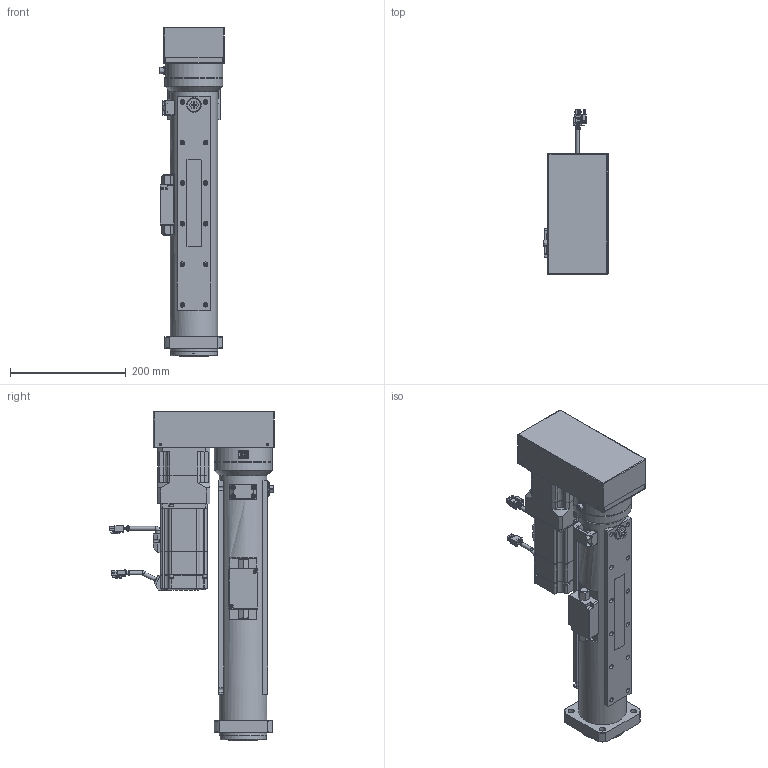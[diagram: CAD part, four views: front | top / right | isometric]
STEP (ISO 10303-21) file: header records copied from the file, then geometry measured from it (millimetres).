
FILE_DESCRIPTION( ('This file contains a STEP AP42 implementation' ,'as created by ZW3D STEP Interface translator.') ,'2;1' );
FILE_NAME( 'OACIS-DC-P008-300-250-A6_V20.01.stp' ,'25 3 8. 91138', (''), ('ZWCAD Software Co.'), 'Version 1.0', 'ZW3D to STEP translator', '' );
FILE_SCHEMA(('AUTOMOTIVE_DESIGN { 1 0 10303 214 1 1 1 1 }'));
Length unit declared in the file: millimetre
Products named in the file (2): 0; OACIS-DC-P008-300-250-A6_V20.01
Bounding box: 110.7 x 284.8 x 568.5 mm (x, y, z)
Volume: 4221109.7 mm3; surface area: 854344.6 mm2
Topology: 16 solids, 30 shells, 1901 faces, 4886 edges, 3160 vertices
Faces by surface type: plane 967, cylinder 537, cone 188, bspline 135, torus 57, sphere 17
Full cylindrical faces by diameter (mm): 1 x17, 1.567 x4, 1.754 x2, 1.755 x2, 1.82 x4, 2 x5, 2.2 x4, 2.5 x8, 2.6 x12, 3.2 x4, 3.3 x82, 4.134 x1, 4.2 x16, 4.3 x22, 4.5 x12, 4.917 x4, 5 x30, 6 x8, 6.4 x6, 6.5 x10, 7 x14, 7.2 x1, 8 x26, 8.5 x1, 9 x4, 10.5 x1, 11 x10, 16.5 x1, 17.5 x1, 18 x1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
Entity records: 64261 total; most frequent: CARTESIAN_POINT 16259, ORIENTED_EDGE 9609, DIRECTION 9361, EDGE_CURVE 4812, AXIS2_PLACEMENT_3D 3306, VERTEX_POINT 3160, VECTOR 2749, LINE 2749
